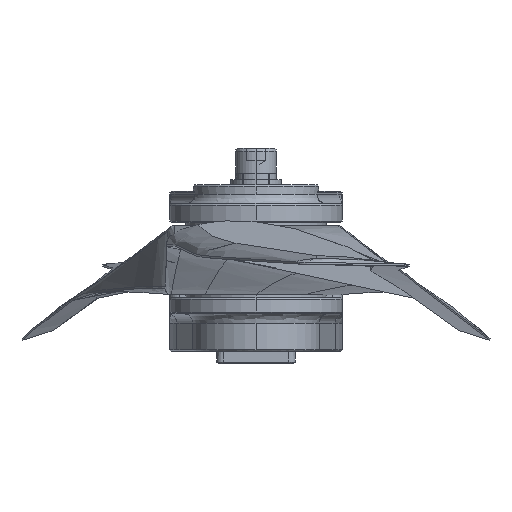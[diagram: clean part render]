
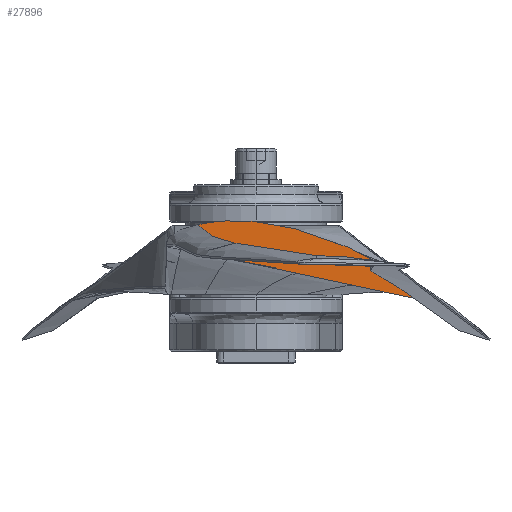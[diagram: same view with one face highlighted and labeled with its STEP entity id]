
A CAD part, left-side view. The second image highlights one B-rep face of the part: STEP entity #27896.
In plain terms, the highlighted planar face has unit normal (-1, 0, 0) as drawn and (0, 0, 1) by its records, which use the part's own axes.
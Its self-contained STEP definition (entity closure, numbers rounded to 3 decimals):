
#380 = VERTEX_POINT ( 'NONE', #37855 ) ;
#2046 = CARTESIAN_POINT ( 'NONE',  ( 50.794, -4.981, 180. ) ) ;
#2611 = CARTESIAN_POINT ( 'NONE',  ( 10.157, 12.572, 180. ) ) ;
#2919 = CARTESIAN_POINT ( 'NONE',  ( 29.714, 5.941, 180. ) ) ;
#3196 = CARTESIAN_POINT ( 'NONE',  ( 2.678, 13.953, 180. ) ) ;
#3484 = CARTESIAN_POINT ( 'NONE',  ( 33.193, 4.343, 180. ) ) ;
#3796 = CARTESIAN_POINT ( 'NONE',  ( -1.833, 14.439, 180. ) ) ;
#4147 = LINE ( 'NONE', #54946, #11355 ) ;
#6427 = CARTESIAN_POINT ( 'NONE',  ( 28.032, -5.367, 180. ) ) ;
#7098 = CARTESIAN_POINT ( 'NONE',  ( 5.675, 13.485, 180. ) ) ;
#7717 = CARTESIAN_POINT ( 'NONE',  ( -3.342, 14.528, 180. ) ) ;
#7993 = CARTESIAN_POINT ( 'NONE',  ( 25.835, 7.586, 180. ) ) ;
#8286 = CARTESIAN_POINT ( 'NONE',  ( 9.411, 12.737, 180. ) ) ;
#10935 = CARTESIAN_POINT ( 'NONE',  ( 50.794, -10.232, 180. ) ) ;
#11355 = VECTOR ( 'NONE', #13741, 1000. ) ;
#11633 = CARTESIAN_POINT ( 'NONE',  ( 13.873, 11.635, 180. ) ) ;
#11665 = ORIENTED_EDGE ( 'NONE', *, *, #28903, .F. ) ;
#11913 = CARTESIAN_POINT ( 'NONE',  ( 39.358, 1.256, 180. ) ) ;
#12200 = CARTESIAN_POINT ( 'NONE',  ( 7.918, 13.05, 180. ) ) ;
#12518 = CARTESIAN_POINT ( 'NONE',  ( 14.612, 11.434, 180. ) ) ;
#12798 = CARTESIAN_POINT ( 'NONE',  ( 45.442, -1.99, 180. ) ) ;
#13065 = EDGE_CURVE ( 'NONE', #380, #58880, #56403, .T. ) ;
#13741 = DIRECTION ( 'NONE',  ( 0., 1., 0. ) ) ;
#16143 = CARTESIAN_POINT ( 'NONE',  ( 25.479, 7.729, 180. ) ) ;
#16445 = CARTESIAN_POINT ( 'NONE',  ( -15.498, 13.928, 180. ) ) ;
#16724 = CARTESIAN_POINT ( 'NONE',  ( 26.901, 7.156, 180. ) ) ;
#16990 = VERTEX_POINT ( 'NONE', #33869 ) ;
#17025 = CARTESIAN_POINT ( 'NONE',  ( 37.317, 2.315, 180. ) ) ;
#17327 = CARTESIAN_POINT ( 'NONE',  ( 44.096, -1.258, 180. ) ) ;
#18653 = DIRECTION ( 'NONE',  ( 0., -1., 0. ) ) ;
#20061 = CARTESIAN_POINT ( 'NONE',  ( 49.461, -4.224, 180. ) ) ;
#20950 = CARTESIAN_POINT ( 'NONE',  ( -8.639, 14.577, 180. ) ) ;
#21251 = CARTESIAN_POINT ( 'NONE',  ( -4.097, 14.563, 180. ) ) ;
#21540 = CARTESIAN_POINT ( 'NONE',  ( -10.918, 14.467, 180. ) ) ;
#21835 = CARTESIAN_POINT ( 'NONE',  ( -6.365, 14.618, 180. ) ) ;
#22135 = CARTESIAN_POINT ( 'NONE',  ( 20.458, 9.612, 180. ) ) ;
#24856 = CARTESIAN_POINT ( 'NONE',  ( 47.458, -3.096, 180. ) ) ;
#25442 = CARTESIAN_POINT ( 'NONE',  ( 27.608, 6.86, 180. ) ) ;
#26031 = CARTESIAN_POINT ( 'NONE',  ( -1.08, 14.381, 180. ) ) ;
#26235 = CARTESIAN_POINT ( 'NONE',  ( 4.928, -0.441, 180. ) ) ;
#26632 = CARTESIAN_POINT ( 'NONE',  ( 24.766, 8.01, 180. ) ) ;
#27896 = ADVANCED_FACE ( 'NONE', ( #48172 ), #48966, .F. ) ;
#28903 = EDGE_CURVE ( 'NONE', #50919, #58880, #4147, .T. ) ;
#29928 = CARTESIAN_POINT ( 'NONE',  ( 41.393, 0.187, 180. ) ) ;
#30223 = CARTESIAN_POINT ( 'NONE',  ( 40.036, 0.899, 180. ) ) ;
#30524 = CARTESIAN_POINT ( 'NONE',  ( -10.158, 14.514, 180. ) ) ;
#30834 = CARTESIAN_POINT ( 'NONE',  ( 43.423, -0.892, 180. ) ) ;
#31121 = CARTESIAN_POINT ( 'NONE',  ( 16.085, 11.013, 180. ) ) ;
#33869 = CARTESIAN_POINT ( 'NONE',  ( 50.794, -10.232, 180. ) ) ;
#34522 = CARTESIAN_POINT ( 'NONE',  ( 0.425, 14.235, 180. ) ) ;
#34586 = DIRECTION ( 'NONE',  ( 0., 0., -1. ) ) ;
#34814 = CARTESIAN_POINT ( 'NONE',  ( -17.014, 13.638, 180. ) ) ;
#35102 = CARTESIAN_POINT ( 'NONE',  ( 3.428, 13.85, 180. ) ) ;
#35399 = CARTESIAN_POINT ( 'NONE',  ( 16.817, 10.791, 180. ) ) ;
#35605 = CARTESIAN_POINT ( 'NONE',  ( -18.52, 4.545, 180. ) ) ;
#35691 = CARTESIAN_POINT ( 'NONE',  ( 33.883, 4.011, 180. ) ) ;
#37164 = EDGE_CURVE ( 'NONE', #380, #16990, #55642, .T. ) ;
#37855 = CARTESIAN_POINT ( 'NONE',  ( 50.794, -4.981, 180. ) ) ;
#38416 = CARTESIAN_POINT ( 'NONE',  ( 48.126, -3.471, 180. ) ) ;
#39279 = CARTESIAN_POINT ( 'NONE',  ( 24.408, 8.148, 180. ) ) ;
#39562 = CARTESIAN_POINT ( 'NONE',  ( 31.11, 5.312, 180. ) ) ;
#39853 = CARTESIAN_POINT ( 'NONE',  ( -14.733, 14.046, 180. ) ) ;
#40036 = B_SPLINE_CURVE_WITH_KNOTS ( 'NONE', 3,
 ( #10935, #6427, #26235, #35605 ),
 .UNSPECIFIED., .F., .F.,
 ( 4, 4 ),
 ( 0., 1. ),
 .UNSPECIFIED. ) ;
#40153 = CARTESIAN_POINT ( 'NONE',  ( 35.945, 2.999, 180. ) ) ;
#40867 = CARTESIAN_POINT ( 'NONE',  ( -18.52, 13.294, 180. ) ) ;
#42902 = CARTESIAN_POINT ( 'NONE',  ( 50.129, -4.6, 180. ) ) ;
#43761 = CARTESIAN_POINT ( 'NONE',  ( 19.006, 10.097, 180. ) ) ;
#44073 = CARTESIAN_POINT ( 'NONE',  ( 4.927, 13.616, 180. ) ) ;
#44355 = CARTESIAN_POINT ( 'NONE',  ( 29.014, 6.253, 180. ) ) ;
#44934 = CARTESIAN_POINT ( 'NONE',  ( 1.176, 14.145, 180. ) ) ;
#45098 = CARTESIAN_POINT ( 'NONE',  ( 50.794, 0., 180. ) ) ;
#45858 = VECTOR ( 'NONE', #18653, 1000. ) ;
#46670 = ORIENTED_EDGE ( 'NONE', *, *, #49449, .F. ) ;
#48172 = FACE_OUTER_BOUND ( 'NONE', #58028, .T. ) ;
#48287 = CARTESIAN_POINT ( 'NONE',  ( -13.205, 14.243, 180. ) ) ;
#48593 = CARTESIAN_POINT ( 'NONE',  ( 31.806, 4.993, 180. ) ) ;
#48903 = CARTESIAN_POINT ( 'NONE',  ( -12.442, 14.328, 180. ) ) ;
#48966 = PLANE ( 'NONE',  #54612 ) ;
#49202 = CARTESIAN_POINT ( 'NONE',  ( 42.072, -0.169, 180. ) ) ;
#49349 = ORIENTED_EDGE ( 'NONE', *, *, #13065, .T. ) ;
#49449 = EDGE_CURVE ( 'NONE', #16990, #50919, #40036, .T. ) ;
#49481 = CARTESIAN_POINT ( 'NONE',  ( 12.392, 12.027, 180. ) ) ;
#50919 = VERTEX_POINT ( 'NONE', #52759 ) ;
#51212 = ORIENTED_EDGE ( 'NONE', *, *, #37164, .F. ) ;
#52759 = CARTESIAN_POINT ( 'NONE',  ( -18.52, 4.545, 180. ) ) ;
#52816 = CARTESIAN_POINT ( 'NONE',  ( -7.88, 14.599, 180. ) ) ;
#53102 = CARTESIAN_POINT ( 'NONE',  ( -18.52, 13.294, 180. ) ) ;
#53391 = CARTESIAN_POINT ( 'NONE',  ( -17.769, 13.477, 180. ) ) ;
#53702 = CARTESIAN_POINT ( 'NONE',  ( 23.336, 8.563, 180. ) ) ;
#53992 = CARTESIAN_POINT ( 'NONE',  ( 22.619, 8.833, 180. ) ) ;
#54044 = CARTESIAN_POINT ( 'NONE',  ( -18.52, 0., 180. ) ) ;
#54612 = AXIS2_PLACEMENT_3D ( 'NONE', #54044, #34586, #57966 ) ;
#54946 = CARTESIAN_POINT ( 'NONE',  ( -18.52, 0., 180. ) ) ;
#55642 = LINE ( 'NONE', #45098, #45858 ) ;
#56403 = B_SPLINE_CURVE_WITH_KNOTS ( 'NONE', 3,
 ( #2046, #42902, #20061, #38416, #24856, #56721, #12798, #17327, #30834, #49202, #29928, #30223, #11913, #17025, #40153, #35691, #3484, #48593, #39562, #2919, #44355, #25442, #16724, #7993, #16143, #26632, #39279, #53702, #53992, #22135, #43761, #35399, #31121, #12518, #11633, #49481, #57909, #2611, #8286, #12200, #57629, #7098, #44073, #35102, #3196, #44934, #34522, #26031, #3796, #7717, #21251, #57313, #21835, #52816, #20950, #30524, #21540, #48903, #48287, #39853, #16445, #34814, #53391, #53102 ),
 .UNSPECIFIED., .F., .F.,
 ( 4, 2, 2, 2, 2, 2, 2, 2, 2, 2, 2, 2, 2, 2, 2, 2, 2, 2, 2, 2, 2, 2, 2, 2, 2, 2, 2, 2, 2, 2, 2, 4 ),
 ( 0., 0.002, 0.005, 0.007, 0.009, 0.011, 0.014, 0.018, 0.021, 0.023, 0.025, 0.028, 0.029, 0.03, 0.032, 0.037, 0.039, 0.041, 0.044, 0.046, 0.048, 0.051, 0.053, 0.055, 0.057, 0.06, 0.062, 0.064, 0.067, 0.069, 0.071, 0.074 ),
 .UNSPECIFIED. ) ;
#56721 = CARTESIAN_POINT ( 'NONE',  ( 46.116, -2.356, 180. ) ) ;
#57313 = CARTESIAN_POINT ( 'NONE',  ( -5.608, 14.61, 180. ) ) ;
#57629 = CARTESIAN_POINT ( 'NONE',  ( 7.17, 13.199, 180. ) ) ;
#57909 = CARTESIAN_POINT ( 'NONE',  ( 11.648, 12.217, 180. ) ) ;
#57966 = DIRECTION ( 'NONE',  ( -1., 0., 0. ) ) ;
#58028 = EDGE_LOOP ( 'NONE', ( #46670, #51212, #49349, #11665 ) ) ;
#58880 = VERTEX_POINT ( 'NONE', #40867 ) ;
